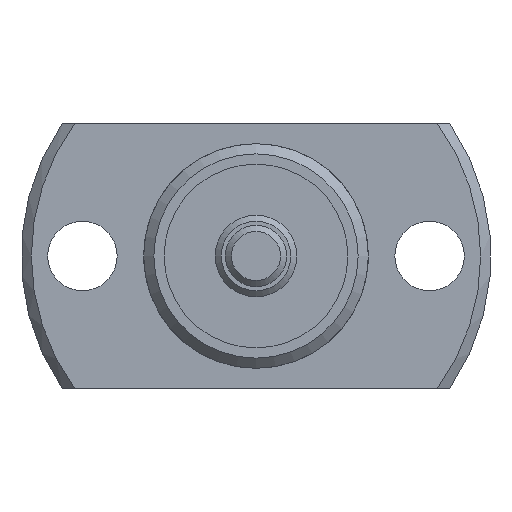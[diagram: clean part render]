
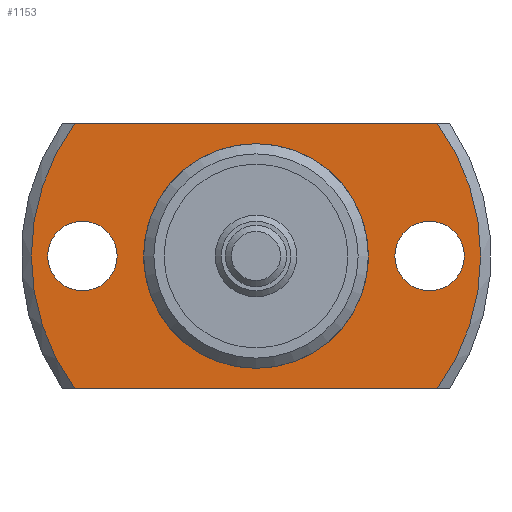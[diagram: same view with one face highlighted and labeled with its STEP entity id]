
A CAD part, left-side view. The second image highlights one B-rep face of the part: STEP entity #1153.
In plain terms, the highlighted planar face has unit normal (-1, 0, 0).
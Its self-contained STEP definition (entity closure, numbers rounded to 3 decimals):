
#111=LINE('',#1937,#169);
#112=LINE('',#1941,#170);
#169=VECTOR('',#1558,1000.);
#170=VECTOR('',#1561,1000.);
#309=ORIENTED_EDGE('',*,*,#573,.T.);
#310=ORIENTED_EDGE('',*,*,#574,.T.);
#311=ORIENTED_EDGE('',*,*,#562,.F.);
#312=ORIENTED_EDGE('',*,*,#575,.T.);
#313=ORIENTED_EDGE('',*,*,#576,.F.);
#314=ORIENTED_EDGE('',*,*,#577,.T.);
#315=ORIENTED_EDGE('',*,*,#556,.T.);
#556=EDGE_CURVE('',#701,#701,#798,.T.);
#562=EDGE_CURVE('',#706,#707,#801,.T.);
#573=EDGE_CURVE('',#716,#716,#807,.T.);
#574=EDGE_CURVE('',#717,#717,#808,.T.);
#575=EDGE_CURVE('',#706,#718,#111,.T.);
#576=EDGE_CURVE('',#719,#718,#809,.T.);
#577=EDGE_CURVE('',#719,#707,#112,.T.);
#701=VERTEX_POINT('',#1884);
#706=VERTEX_POINT('',#1898);
#707=VERTEX_POINT('',#1900);
#716=VERTEX_POINT('',#1934);
#717=VERTEX_POINT('',#1936);
#718=VERTEX_POINT('',#1938);
#719=VERTEX_POINT('',#1940);
#798=CIRCLE('',#1284,5.3);
#801=CIRCLE('',#1288,11.);
#807=CIRCLE('',#1299,1.7);
#808=CIRCLE('',#1300,1.7);
#809=CIRCLE('',#1301,11.);
#899=EDGE_LOOP('',(#309));
#900=EDGE_LOOP('',(#310));
#901=EDGE_LOOP('',(#311,#312,#313,#314));
#902=EDGE_LOOP('',(#315));
#1019=FACE_BOUND('',#899,.T.);
#1020=FACE_BOUND('',#900,.T.);
#1021=FACE_BOUND('',#901,.T.);
#1022=FACE_BOUND('',#902,.T.);
#1095=PLANE('',#1298);
#1153=ADVANCED_FACE('',(#1019,#1020,#1021,#1022),#1095,.F.);
#1284=AXIS2_PLACEMENT_3D('',#1883,#1520,#1521);
#1288=AXIS2_PLACEMENT_3D('',#1899,#1530,#1531);
#1298=AXIS2_PLACEMENT_3D('',#1932,#1552,#1553);
#1299=AXIS2_PLACEMENT_3D('',#1933,#1554,#1555);
#1300=AXIS2_PLACEMENT_3D('',#1935,#1556,#1557);
#1301=AXIS2_PLACEMENT_3D('',#1939,#1559,#1560);
#1520=DIRECTION('',(1.,0.,0.));
#1521=DIRECTION('',(0.,0.,-1.));
#1530=DIRECTION('',(1.,0.,0.));
#1531=DIRECTION('',(0.,0.,-1.));
#1552=DIRECTION('',(1.,0.,0.));
#1553=DIRECTION('',(0.,0.,-1.));
#1554=DIRECTION('',(1.,0.,0.));
#1555=DIRECTION('',(0.,0.,-1.));
#1556=DIRECTION('',(1.,0.,0.));
#1557=DIRECTION('',(0.,0.,-1.));
#1558=DIRECTION('',(0.,-1.,0.));
#1559=DIRECTION('',(1.,0.,0.));
#1560=DIRECTION('',(0.,0.,-1.));
#1561=DIRECTION('',(0.,1.,0.));
#1883=CARTESIAN_POINT('',(13.,0.,0.));
#1884=CARTESIAN_POINT('',(13.,0.,-5.3));
#1898=CARTESIAN_POINT('',(13.,8.874,-6.5));
#1899=CARTESIAN_POINT('',(13.,0.,0.));
#1900=CARTESIAN_POINT('',(13.,8.874,6.5));
#1932=CARTESIAN_POINT('',(13.,5.3,0.));
#1933=CARTESIAN_POINT('',(13.,-8.5,0.));
#1934=CARTESIAN_POINT('',(13.,-8.5,-1.7));
#1935=CARTESIAN_POINT('',(13.,8.5,0.));
#1936=CARTESIAN_POINT('',(13.,8.5,-1.7));
#1937=CARTESIAN_POINT('',(13.,5.3,-6.5));
#1938=CARTESIAN_POINT('',(13.,-8.874,-6.5));
#1939=CARTESIAN_POINT('',(13.,0.,0.));
#1940=CARTESIAN_POINT('',(13.,-8.874,6.5));
#1941=CARTESIAN_POINT('',(13.,5.3,6.5));
